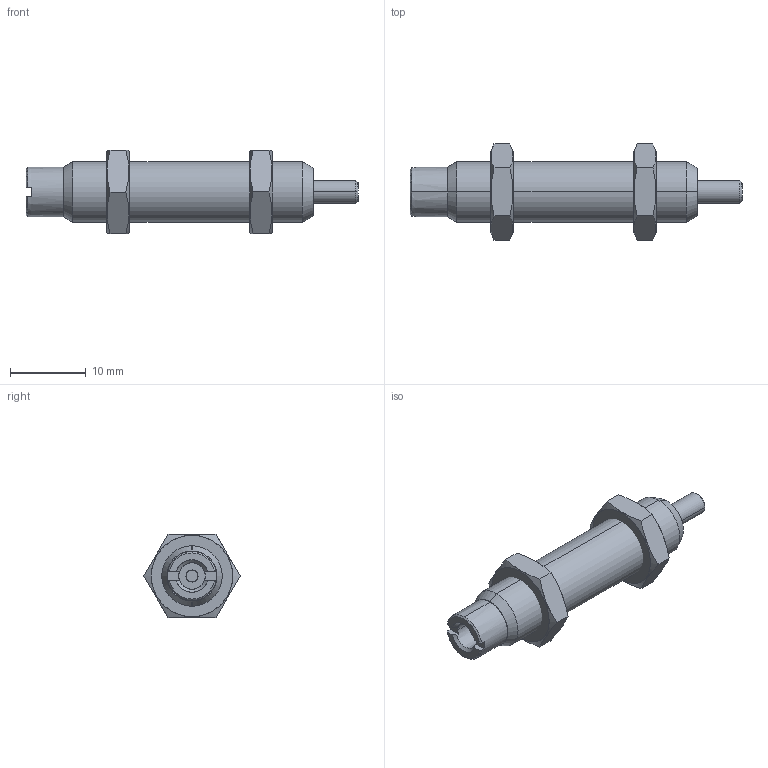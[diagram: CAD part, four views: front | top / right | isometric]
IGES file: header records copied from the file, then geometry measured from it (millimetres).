
Start section: SolidWorks IGES file using analytic representation for surfaces
Global section: file name: D:\IGS跡宒\AC0806-N(P0.75).IGS,1; native system: 5HSolidWorks 2013; preprocessor: SolidWorks 2013; author: Administrator; date: 160406.151445; units: inch
Bounding box: 43.9 x 12.7 x 11 mm (x, y, z)
Surface area: 1704.1 mm2 (no closed solid volume)
Topology: 0 solids, 0 shells, 62 faces, 1041 edges, 1041 vertices
Faces by surface type: revolution 33, bspline 29
